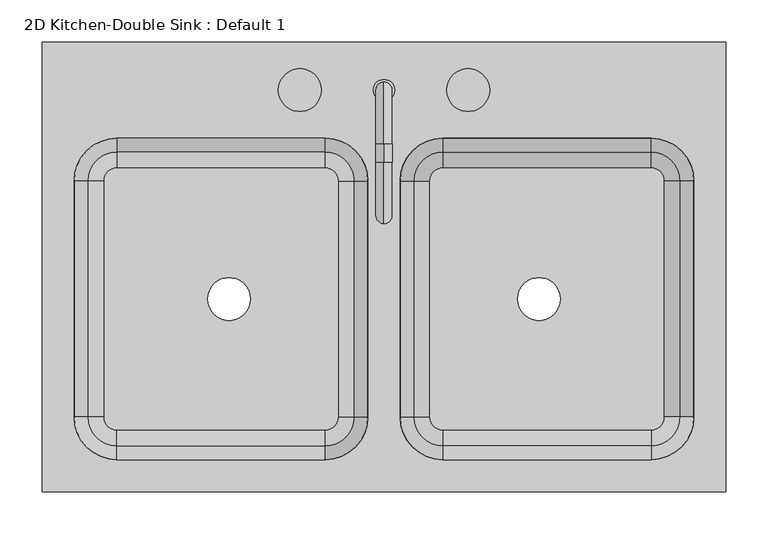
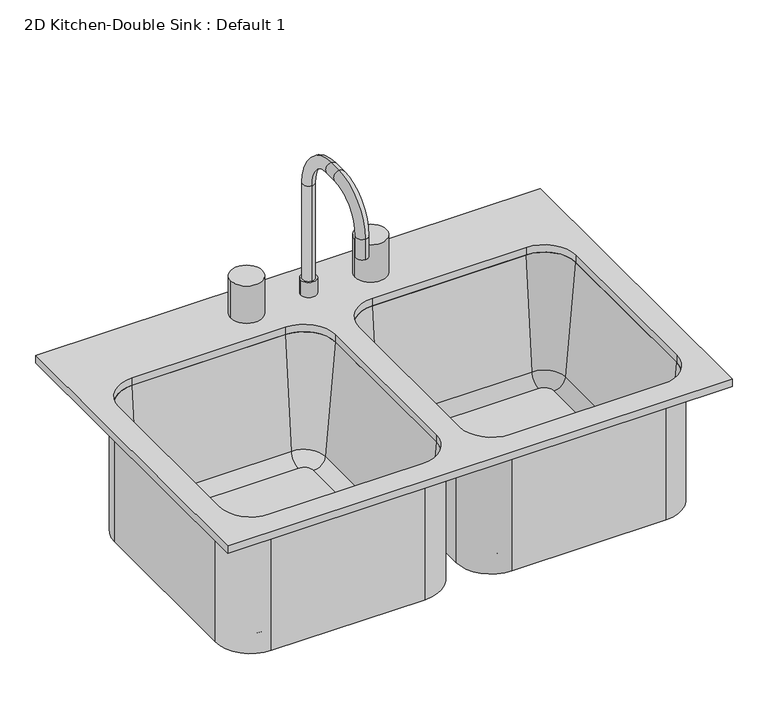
"""IFC4 building model written with IfcOpenShell, lengths in millimetres: flow terminal geometry, 2D Kitchen-Double Sink : Default 1."""

from ifc_helpers import new_model, si_unit, point, frame, frame_2d, origin, place, context, project, spatial, polyline, circle_curve, ellipse_curve, trimmed, segment, composite_curve, outline, extrude, source, transform, mapped, element, save
from ifc_brep_helpers import plane_surface, cylinder_surface, revolved_surface, advanced_brep


def flow_terminal_2d_kitchen_double_sink_default_1_5e0e203f(model_context):
    return source(origin(), model_context, "Body", "SolidModel", [
        advanced_brep(
        [(333.1892343, 120.0338193, 555.625), (85.5392406, 120.0338193, 555.625), (70.2508224, 104.7454011, 555.625), (70.2508224, -176.2545989, 555.625), (85.5392406, -191.5430171, 555.625), (333.1892406, -191.5430171, 555.625), (348.4776588, -176.2545989, 555.625), (348.4776588, 104.7454011, 555.625), (174.4392406, -35.7545989, 555.625), (225.2392406, -35.7545989, 555.625), (28.3892406, 104.7454011, 546.1), (85.5392406, 161.8954011, 546.1), (333.1892406, 161.8954011, 546.1), (390.3392406, 104.7454011, 546.1), (390.3392406, -176.2545989, 546.1), (333.1892406, -233.4045989, 546.1), (85.5392406, -233.4045989, 546.1), (28.3892406, -176.2545989, 546.1), (174.4392406, -35.7545989, 546.1), (225.2392406, -35.7545989, 546.1), (34.7392406, 104.7454011, 762.0), (85.5392406, 155.5454011, 762.0), (85.5392406, 161.8954011, 762.0), (28.3892406, 104.7454011, 762.0), (51.2733134, 104.7454011, 573.0146831), (85.5392406, 139.0113283, 573.0146831), (28.3892406, -176.2545989, 762.0), (34.7392406, -176.2545989, 762.0), (51.2733134, -176.2545989, 573.0146831), (85.5392406, -233.4045989, 762.0), (85.5392406, -227.0545989, 762.0), (85.5392406, -210.5205261, 573.0146831), (333.1892406, -233.4045989, 762.0), (333.1892406, -227.0545989, 762.0), (333.1892406, -210.5205261, 573.0146831), (390.3392406, -176.2545989, 762.0), (383.9892406, -176.2545989, 762.0), (367.4551678, -176.2545989, 573.0146831), (390.3392406, 104.7454011, 762.0), (383.9892406, 104.7454011, 762.0), (367.4551678, 104.7454011, 573.0146831), (333.1892406, 161.8954011, 762.0), (333.1892406, 155.5454011, 762.0), (333.1892406, 139.0113283, 573.0146831)],
        [
            (0, 1),
            (1, 2, circle_curve(frame((85.5392406, 104.7454011, 555.625), z_axis=(0.0, 0.0, 1.0), x_axis=(0.0, 1.0, 0.0)), 15.2884182)),
            (2, 3),
            (3, 4, circle_curve(frame((85.5392406, -176.2545989, 555.625), z_axis=(0.0, 0.0, 1.0), x_axis=(-1.0, 0.0, 0.0)), 15.2884182)),
            (4, 5),
            (5, 6, circle_curve(frame((333.1892406, -176.2545989, 555.625), z_axis=(0.0, 0.0, 1.0), x_axis=(0.0, -1.0, 0.0)), 15.2884182)),
            (6, 7),
            (7, 0, circle_curve(frame((333.1892406, 104.7454011, 555.625), z_axis=(0.0, 0.0, 1.0), x_axis=(1.0, 0.0, 0.0)), 15.2884182)),
            (8, 9, circle_curve(frame((199.8392406, -35.7545989, 555.625), z_axis=(0.0, 0.0, -1.0), x_axis=(1.0, 0.0, 0.0)), 25.4)),
            (9, 8, circle_curve(frame((199.8392406, -35.7545989, 555.625), z_axis=(0.0, 0.0, -1.0), x_axis=(1.0, 0.0, 0.0)), 25.4)),
            (10, 11, circle_curve(frame((85.5392406, 104.7454011, 546.1), z_axis=(0.0, 0.0, -1.0), x_axis=(0.0, 1.0, 0.0)), 57.15)),
            (11, 12),
            (12, 13, circle_curve(frame((333.1892406, 104.7454011, 546.1), z_axis=(0.0, 0.0, -1.0), x_axis=(1.0, 0.0, 0.0)), 57.15)),
            (13, 14),
            (14, 15, circle_curve(frame((333.1892406, -176.2545989, 546.1), z_axis=(0.0, 0.0, -1.0), x_axis=(0.0, -1.0, 0.0)), 57.15)),
            (15, 16),
            (16, 17, circle_curve(frame((85.5392406, -176.2545989, 546.1), z_axis=(0.0, 0.0, -1.0), x_axis=(-1.0, 0.0, 0.0)), 57.15)),
            (17, 10),
            (18, 19, circle_curve(frame((199.8392406, -35.7545989, 546.1), z_axis=(0.0, 0.0, 1.0), x_axis=(1.0, 0.0, 0.0)), 25.4)),
            (19, 18, circle_curve(frame((199.8392406, -35.7545989, 546.1), z_axis=(0.0, 0.0, 1.0), x_axis=(1.0, 0.0, 0.0)), 25.4)),
            (8, 18),
            (19, 9),
            (20, 21, circle_curve(frame((85.5392406, 104.7454011, 762.0), z_axis=(0.0, 0.0, -1.0), x_axis=(0.0, 1.0, 0.0)), 50.8)),
            (21, 22),
            (22, 23, circle_curve(frame((85.5392406, 104.7454011, 762.0), z_axis=(0.0, 0.0, 1.0), x_axis=(0.0, 1.0, 0.0)), 57.15)),
            (23, 20),
            (20, 24),
            (24, 25, circle_curve(frame((85.5392406, 104.7454011, 573.0146831), z_axis=(0.0, 0.0, -1.0), x_axis=(0.0, 1.0, 0.0)), 34.2659272)),
            (25, 21),
            (24, 2, circle_curve(frame((70.2508224, 104.7454011, 574.675), z_axis=(0.0, -1.0, 0.0), x_axis=(1.0, 0.0, 0.0)), 19.05)),
            (1, 25, circle_curve(frame((85.5392406, 120.0338193, 574.675), z_axis=(1.0, 0.0, 0.0), x_axis=(0.0, -1.0, 0.0)), 19.05)),
            (22, 11),
            (10, 23),
            (23, 26),
            (26, 27),
            (27, 20),
            (27, 28),
            (28, 24),
            (28, 3, circle_curve(frame((70.2508224, -176.2545989, 574.675), z_axis=(0.0, -1.0, 0.0), x_axis=(1.0, 0.0, 0.0)), 19.05)),
            (17, 26),
            (26, 29, circle_curve(frame((85.5392406, -176.2545989, 762.0), z_axis=(0.0, 0.0, 1.0), x_axis=(-1.0, 0.0, 0.0)), 57.15)),
            (29, 30),
            (30, 27, circle_curve(frame((85.5392406, -176.2545989, 762.0), z_axis=(0.0, 0.0, -1.0), x_axis=(-1.0, 0.0, 0.0)), 50.8)),
            (30, 31),
            (31, 28, circle_curve(frame((85.5392406, -176.2545989, 573.0146831), z_axis=(0.0, 0.0, -1.0), x_axis=(-1.0, 0.0, 0.0)), 34.2659272)),
            (31, 4, circle_curve(frame((85.5392406, -191.5430171, 574.675), z_axis=(1.0, 0.0, 0.0), x_axis=(0.0, 1.0, 0.0)), 19.05)),
            (16, 29),
            (29, 32),
            (32, 33),
            (33, 30),
            (33, 34),
            (34, 31),
            (34, 5, circle_curve(frame((333.1892406, -191.5430171, 574.675), z_axis=(1.0, 0.0, 0.0), x_axis=(0.0, 1.0, 0.0)), 19.05)),
            (15, 32),
            (32, 35, circle_curve(frame((333.1892406, -176.2545989, 762.0), z_axis=(0.0, 0.0, 1.0), x_axis=(0.0, -1.0, 0.0)), 57.15)),
            (35, 36),
            (36, 33, circle_curve(frame((333.1892406, -176.2545989, 762.0), z_axis=(0.0, 0.0, -1.0), x_axis=(0.0, -1.0, 0.0)), 50.8)),
            (36, 37),
            (37, 34, circle_curve(frame((333.1892406, -176.2545989, 573.0146831), z_axis=(0.0, 0.0, -1.0), x_axis=(0.0, -1.0, 0.0)), 34.2659272)),
            (37, 6, circle_curve(frame((348.4776588, -176.2545989, 574.675), z_axis=(0.0, 1.0, 0.0), x_axis=(-1.0, 0.0, 0.0)), 19.05)),
            (14, 35),
            (35, 38),
            (38, 39),
            (39, 36),
            (39, 40),
            (40, 37),
            (40, 7, circle_curve(frame((348.4776588, 104.7454011, 574.675), z_axis=(0.0, 1.0, 0.0), x_axis=(-1.0, 0.0, 0.0)), 19.05)),
            (13, 38),
            (38, 41, circle_curve(frame((333.1892406, 104.7454011, 762.0), z_axis=(0.0, 0.0, 1.0), x_axis=(1.0, 0.0, 0.0)), 57.15)),
            (41, 42),
            (42, 39, circle_curve(frame((333.1892406, 104.7454011, 762.0), z_axis=(0.0, 0.0, -1.0), x_axis=(1.0, 0.0, 0.0)), 50.8)),
            (42, 43),
            (43, 40, circle_curve(frame((333.1892406, 104.7454011, 573.0146831), z_axis=(0.0, 0.0, -1.0), x_axis=(1.0, 0.0, 0.0)), 34.2659272)),
            (43, 0, circle_curve(frame((333.1892406, 120.0338193, 574.675), z_axis=(-1.0, 0.0, 0.0), x_axis=(0.0, -1.0, 0.0)), 19.05)),
            (12, 41),
            (21, 42),
            (41, 22),
            (25, 43),
        ],
        [
            plane_surface(frame((85.5392406, 120.0338193, 555.625), z_axis=(0.0, 0.0, 1.0), x_axis=(-1.0, 0.0, 0.0))),
            plane_surface(frame((85.5392406, 120.0338193, 546.1), z_axis=(0.0, 0.0, -1.0), x_axis=(1.0, 0.0, 0.0))),
            revolved_surface(polyline([(225.23924060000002, -35.7545989, 546.1), (225.23924060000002, -35.7545989, 555.625)]), (199.8392406, -35.7545989, 0.0), (0.0, 0.0, -1.0)),
            plane_surface(frame((85.5392406, 104.7454011, 762.0), z_axis=(0.0, 0.0, 1.0), x_axis=(0.0, 1.0, 0.0))),
            revolved_surface(polyline([(85.5392406, 155.5454011, 762.0), (85.5392406, 139.0113283, 573.0146831)]), (85.5392406, 104.7454011, 0.0), (0.0, 0.0, 1.0)),
            revolved_surface(trimmed(ellipse_curve(frame((85.5392406, 120.0338193, 574.675), z_axis=(-1.0, 0.0, 0.0), x_axis=(0.0, -1.0, 0.0)), 19.05, 19.05), [point((85.5392406, 139.0113283, 573.0146831))], [point((85.5392406, 120.0338193, 555.625))], True, "CARTESIAN"), (85.5392406, 104.7454011, 0.0), (0.0, 0.0, 1.0)),
            cylinder_surface(frame((85.5392406, 104.7454011, 0.0), z_axis=(0.0, 0.0, 1.0), x_axis=(0.0, 1.0, 0.0)), 57.15),
            plane_surface(frame((28.3892406, 104.7454011, 762.0), z_axis=(0.0, 0.0, 1.0), x_axis=(0.0, -1.0, 0.0))),
            plane_surface(frame((34.7392406, 104.7454011, 762.0), z_axis=(0.996194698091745, 0.0, 0.08715574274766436), x_axis=(0.0, -1.0, 0.0))),
            revolved_surface(polyline([(89.3008224, -176.25459890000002, 574.675), (89.3008224, 104.7454011, 574.675)]), (70.2508224, 104.7454011, 574.675), (0.0, -1.0, 0.0)),
            plane_surface(frame((28.3892406, 104.7454011, 546.1), z_axis=(-1.0, 0.0, 0.0), x_axis=(0.0, -1.0, 0.0))),
            plane_surface(frame((85.5392406, -176.2545989, 762.0), z_axis=(0.0, 0.0, 1.0), x_axis=(-1.0, 0.0, 0.0))),
            revolved_surface(polyline([(34.7392406, -176.2545989, 762.0), (51.2733134, -176.2545989, 573.0146831)]), (85.5392406, -176.2545989, 0.0), (0.0, 0.0, 1.0)),
            revolved_surface(trimmed(ellipse_curve(frame((70.2508224, -176.2545989, 574.675), z_axis=(0.0, -1.0, 0.0), x_axis=(1.0, 0.0, 0.0)), 19.05, 19.05), [point((51.2733134, -176.2545989, 573.0146831))], [point((70.2508224, -176.2545989, 555.625))], True, "CARTESIAN"), (85.5392406, -176.2545989, 0.0), (0.0, 0.0, 1.0)),
            cylinder_surface(frame((85.5392406, -176.2545989, 0.0), z_axis=(0.0, 0.0, 1.0), x_axis=(-1.0, 0.0, 0.0)), 57.15),
            plane_surface(frame((85.5392406, -233.4045989, 762.0), z_axis=(0.0, 0.0, 1.0), x_axis=(1.0, 0.0, 0.0))),
            plane_surface(frame((85.5392406, -227.0545989, 762.0), z_axis=(0.0, 0.996194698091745, 0.08715574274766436), x_axis=(1.0, 0.0, 0.0))),
            revolved_surface(polyline([(333.1892406, -172.49301709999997, 574.675), (85.5392406, -172.49301709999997, 574.675)]), (85.5392406, -191.5430171, 574.675), (1.0, 0.0, 0.0)),
            plane_surface(frame((85.5392406, -233.4045989, 546.1), z_axis=(0.0, -1.0, 0.0), x_axis=(1.0, 0.0, 0.0))),
            plane_surface(frame((333.1892406, -176.2545989, 762.0), z_axis=(0.0, 0.0, 1.0), x_axis=(0.0, -1.0, 0.0))),
            revolved_surface(polyline([(333.1892406, -227.0545989, 762.0), (333.1892406, -210.5205261, 573.0146831)]), (333.1892406, -176.2545989, 0.0), (0.0, 0.0, 1.0)),
            revolved_surface(trimmed(ellipse_curve(frame((333.1892406, -191.5430171, 574.675), z_axis=(1.0, 0.0, 0.0), x_axis=(0.0, 1.0, 0.0)), 19.05, 19.05), [point((333.1892406, -210.5205261, 573.0146831))], [point((333.1892406, -191.5430171, 555.625))], True, "CARTESIAN"), (333.1892406, -176.2545989, 0.0), (0.0, 0.0, 1.0)),
            cylinder_surface(frame((333.1892406, -176.2545989, 0.0), z_axis=(0.0, 0.0, 1.0), x_axis=(0.0, -1.0, 0.0)), 57.15),
            plane_surface(frame((390.3392406, -176.2545989, 762.0), z_axis=(0.0, 0.0, 1.0), x_axis=(0.0, 1.0, 0.0))),
            plane_surface(frame((383.9892406, -176.2545989, 762.0), z_axis=(-0.996194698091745, 0.0, 0.08715574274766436), x_axis=(0.0, 1.0, 0.0))),
            revolved_surface(polyline([(329.42765879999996, 104.74540110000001, 574.675), (329.42765879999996, -176.2545989, 574.675)]), (348.4776588, -176.2545989, 574.675), (0.0, 1.0, 0.0)),
            plane_surface(frame((390.3392406, -176.2545989, 546.1), z_axis=(1.0, 0.0, 0.0), x_axis=(0.0, 1.0, 0.0))),
            plane_surface(frame((333.1892406, 104.7454011, 762.0), z_axis=(0.0, 0.0, 1.0), x_axis=(1.0, 0.0, 0.0))),
            revolved_surface(polyline([(383.9892406, 104.7454011, 762.0), (367.4551678, 104.7454011, 573.0146831)]), (333.1892406, 104.7454011, 0.0), (0.0, 0.0, 1.0)),
            revolved_surface(trimmed(ellipse_curve(frame((348.4776588, 104.7454011, 574.675), z_axis=(0.0, 1.0, 0.0), x_axis=(-1.0, 0.0, 0.0)), 19.05, 19.05), [point((367.4551678, 104.7454011, 573.0146831))], [point((348.4776588, 104.7454011, 555.625))], True, "CARTESIAN"), (333.1892406, 104.7454011, 0.0), (0.0, 0.0, 1.0)),
            cylinder_surface(frame((333.1892406, 104.7454011, 0.0), z_axis=(0.0, 0.0, 1.0), x_axis=(1.0, 0.0, 0.0)), 57.15),
            plane_surface(frame((333.1892406, 161.8954011, 762.0), z_axis=(0.0, 0.0, 1.0), x_axis=(-1.0, 0.0, 0.0))),
            plane_surface(frame((333.1892406, 155.5454011, 762.0), z_axis=(0.0, -0.996194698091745, 0.08715574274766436), x_axis=(-1.0, 0.0, 0.0))),
            revolved_surface(polyline([(85.5392406, 100.98381930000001, 574.675), (333.1892406, 100.98381930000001, 574.675)]), (333.1892406, 120.0338193, 574.675), (-1.0, 0.0, 0.0)),
            plane_surface(frame((333.1892406, 161.8954011, 546.1), z_axis=(0.0, 1.0, 0.0), x_axis=(-1.0, 0.0, 0.0))),
        ],
        [
            (0, [[1, 2, 3, 4, 5, 6, 7, 8], [9, 10]]),
            (1, [[11, 12, 13, 14, 15, 16, 17, 18], [19, 20]]),
            (2, [[-9, 21, -20, 22]]),
            (2, [[-10, -22, -19, -21]]),
            (3, [[23, 24, 25, 26]]),
            (4, [[-23, 27, 28, 29]]),
            (5, [[-28, 30, -2, 31]]),
            (6, [[-25, 32, -11, 33]]),
            (7, [[-26, 34, 35, 36]]),
            (8, [[-27, -36, 37, 38]]),
            (9, [[-30, -38, 39, -3]]),
            (10, [[-33, -18, 40, -34]]),
            (11, [[-35, 41, 42, 43]]),
            (12, [[-37, -43, 44, 45]]),
            (13, [[-39, -45, 46, -4]]),
            (14, [[-40, -17, 47, -41]]),
            (15, [[-42, 48, 49, 50]]),
            (16, [[-44, -50, 51, 52]]),
            (17, [[-46, -52, 53, -5]]),
            (18, [[-47, -16, 54, -48]]),
            (19, [[-49, 55, 56, 57]]),
            (20, [[-51, -57, 58, 59]]),
            (21, [[-53, -59, 60, -6]]),
            (22, [[-54, -15, 61, -55]]),
            (23, [[-56, 62, 63, 64]]),
            (24, [[-58, -64, 65, 66]]),
            (25, [[-60, -66, 67, -7]]),
            (26, [[-61, -14, 68, -62]]),
            (27, [[-63, 69, 70, 71]]),
            (28, [[-65, -71, 72, 73]]),
            (29, [[-67, -73, 74, -8]]),
            (30, [[-68, -13, 75, -69]]),
            (31, [[-24, 76, -70, 77]]),
            (32, [[-29, 78, -72, -76]]),
            (33, [[-31, -1, -74, -78]]),
            (34, [[-32, -77, -75, -12]]),
        ],
    ),
        advanced_brep(
        [(-38.8723412, 104.7454011, 555.625), (-54.1607594, 120.0338193, 555.625), (-301.8107594, 120.0338193, 555.625), (-317.0991776, 104.7454011, 555.625), (-317.0991776, -176.2545989, 555.625), (-301.8107594, -191.5430171, 555.625), (-54.1607594, -191.5430171, 555.625), (-38.8723412, -176.2545989, 555.625), (-193.8607594, -35.7545989, 555.625), (-143.0607594, -35.7545989, 555.625), (-358.9607594, 104.7454011, 546.1), (-301.8107594, 161.8954011, 546.1), (-54.1607594, 161.8954011, 546.1), (2.9892406, 104.7454011, 546.1), (2.9892406, -176.2545989, 546.1), (-54.1607594, -233.4045989, 546.1), (-301.8107594, -233.4045989, 546.1), (-358.9607594, -176.2545989, 546.1), (-193.8607594, -35.7545989, 546.1), (-143.0607594, -35.7545989, 546.1), (-54.1607594, 161.8954011, 762.0), (2.9892406, 104.7454011, 762.0), (-19.8948322, 104.7454011, 573.0146831), (-54.1607594, 139.0113283, 573.0146831), (-3.3607594, 104.7454011, 762.0), (-54.1607594, 155.5454011, 762.0), (2.9892406, -176.2545989, 762.0), (-19.8948322, -176.2545989, 573.0146831), (-3.3607594, -176.2545989, 762.0), (-54.1607594, -233.4045989, 762.0), (-54.1607594, -210.5205261, 573.0146831), (-54.1607594, -227.0545989, 762.0), (-301.8107594, -233.4045989, 762.0), (-301.8107594, -210.5205261, 573.0146831), (-301.8107594, -227.0545989, 762.0), (-358.9607594, -176.2545989, 762.0), (-336.0766866, -176.2545989, 573.0146831), (-352.6107594, -176.2545989, 762.0), (-358.9607594, 104.7454011, 762.0), (-336.0766866, 104.7454011, 573.0146831), (-352.6107594, 104.7454011, 762.0), (-301.8107594, 161.8954011, 762.0), (-301.8107594, 139.0113283, 573.0146831), (-301.8107594, 155.5454011, 762.0)],
        [
            (0, 1, circle_curve(frame((-54.1607594, 104.7454011, 555.625), z_axis=(0.0, 0.0, 1.0), x_axis=(0.0, 1.0, 0.0)), 15.2884182)),
            (1, 2),
            (2, 3, circle_curve(frame((-301.8107594, 104.7454011, 555.625), z_axis=(0.0, 0.0, 1.0), x_axis=(-1.0, 0.0, 0.0)), 15.2884182)),
            (3, 4),
            (4, 5, circle_curve(frame((-301.8107594, -176.2545989, 555.625), z_axis=(0.0, 0.0, 1.0), x_axis=(0.0, -1.0, 0.0)), 15.2884182)),
            (5, 6),
            (6, 7, circle_curve(frame((-54.1607594, -176.2545989, 555.625), z_axis=(0.0, 0.0, 1.0), x_axis=(1.0, 0.0, 0.0)), 15.2884182)),
            (7, 0),
            (8, 9, circle_curve(frame((-168.4607594, -35.7545989, 555.625), z_axis=(0.0, 0.0, -1.0), x_axis=(1.0, 0.0, 0.0)), 25.4)),
            (9, 8, circle_curve(frame((-168.4607594, -35.7545989, 555.625), z_axis=(0.0, 0.0, -1.0), x_axis=(1.0, 0.0, 0.0)), 25.4)),
            (10, 11, circle_curve(frame((-301.8107594, 104.7454011, 546.1), z_axis=(0.0, 0.0, -1.0), x_axis=(-1.0, 0.0, 0.0)), 57.15)),
            (11, 12),
            (12, 13, circle_curve(frame((-54.1607594, 104.7454011, 546.1), z_axis=(0.0, 0.0, -1.0), x_axis=(0.0, 1.0, 0.0)), 57.15)),
            (13, 14),
            (14, 15, circle_curve(frame((-54.1607594, -176.2545989, 546.1), z_axis=(0.0, 0.0, -1.0), x_axis=(1.0, 0.0, 0.0)), 57.15)),
            (15, 16),
            (16, 17, circle_curve(frame((-301.8107594, -176.2545989, 546.1), z_axis=(0.0, 0.0, -1.0), x_axis=(0.0, -1.0, 0.0)), 57.15)),
            (17, 10),
            (18, 19, circle_curve(frame((-168.4607594, -35.7545989, 546.1), z_axis=(0.0, 0.0, 1.0), x_axis=(1.0, 0.0, 0.0)), 25.4)),
            (19, 18, circle_curve(frame((-168.4607594, -35.7545989, 546.1), z_axis=(0.0, 0.0, 1.0), x_axis=(1.0, 0.0, 0.0)), 25.4)),
            (8, 18),
            (19, 9),
            (12, 20),
            (20, 21, circle_curve(frame((-54.1607594, 104.7454011, 762.0), z_axis=(0.0, 0.0, -1.0), x_axis=(0.0, 1.0, 0.0)), 57.15)),
            (21, 13),
            (0, 22, circle_curve(frame((-38.8723412, 104.7454011, 574.675), z_axis=(0.0, -1.0, 0.0), x_axis=(1.0, 0.0, 0.0)), 19.05)),
            (22, 23, circle_curve(frame((-54.1607594, 104.7454011, 573.0146831), z_axis=(0.0, 0.0, 1.0), x_axis=(0.0, 1.0, 0.0)), 34.2659272)),
            (23, 1, circle_curve(frame((-54.1607594, 120.0338193, 574.675), z_axis=(-1.0, 0.0, 0.0), x_axis=(0.0, 1.0, 0.0)), 19.05)),
            (22, 24),
            (24, 25, circle_curve(frame((-54.1607594, 104.7454011, 762.0), z_axis=(0.0, 0.0, 1.0), x_axis=(0.0, 1.0, 0.0)), 50.8)),
            (25, 23),
            (20, 25),
            (24, 21),
            (21, 26),
            (26, 14),
            (7, 27, circle_curve(frame((-38.8723412, -176.2545989, 574.675), z_axis=(0.0, -1.0, 0.0), x_axis=(1.0, 0.0, 0.0)), 19.05)),
            (27, 22),
            (27, 28),
            (28, 24),
            (28, 26),
            (26, 29, circle_curve(frame((-54.1607594, -176.2545989, 762.0), z_axis=(0.0, 0.0, -1.0), x_axis=(1.0, 0.0, 0.0)), 57.15)),
            (29, 15),
            (6, 30, circle_curve(frame((-54.1607594, -191.5430171, 574.675), z_axis=(-1.0, 0.0, 0.0), x_axis=(0.0, -1.0, 0.0)), 19.05)),
            (30, 27, circle_curve(frame((-54.1607594, -176.2545989, 573.0146831), z_axis=(0.0, 0.0, 1.0), x_axis=(1.0, 0.0, 0.0)), 34.2659272)),
            (30, 31),
            (31, 28, circle_curve(frame((-54.1607594, -176.2545989, 762.0), z_axis=(0.0, 0.0, 1.0), x_axis=(1.0, 0.0, 0.0)), 50.8)),
            (31, 29),
            (29, 32),
            (32, 16),
            (5, 33, circle_curve(frame((-301.8107594, -191.5430171, 574.675), z_axis=(-1.0, 0.0, 0.0), x_axis=(0.0, -1.0, 0.0)), 19.05)),
            (33, 30),
            (33, 34),
            (34, 31),
            (34, 32),
            (32, 35, circle_curve(frame((-301.8107594, -176.2545989, 762.0), z_axis=(0.0, 0.0, -1.0), x_axis=(0.0, -1.0, 0.0)), 57.15)),
            (35, 17),
            (4, 36, circle_curve(frame((-317.0991776, -176.2545989, 574.675), z_axis=(0.0, 1.0, 0.0), x_axis=(-1.0, 0.0, 0.0)), 19.05)),
            (36, 33, circle_curve(frame((-301.8107594, -176.2545989, 573.0146831), z_axis=(0.0, 0.0, 1.0), x_axis=(0.0, -1.0, 0.0)), 34.2659272)),
            (36, 37),
            (37, 34, circle_curve(frame((-301.8107594, -176.2545989, 762.0), z_axis=(0.0, 0.0, 1.0), x_axis=(0.0, -1.0, 0.0)), 50.8)),
            (37, 35),
            (35, 38),
            (38, 10),
            (3, 39, circle_curve(frame((-317.0991776, 104.7454011, 574.675), z_axis=(0.0, 1.0, 0.0), x_axis=(-1.0, 0.0, 0.0)), 19.05)),
            (39, 36),
            (39, 40),
            (40, 37),
            (40, 38),
            (38, 41, circle_curve(frame((-301.8107594, 104.7454011, 762.0), z_axis=(0.0, 0.0, -1.0), x_axis=(-1.0, 0.0, 0.0)), 57.15)),
            (41, 11),
            (2, 42, circle_curve(frame((-301.8107594, 120.0338193, 574.675), z_axis=(1.0, 0.0, 0.0), x_axis=(0.0, 1.0, 0.0)), 19.05)),
            (42, 39, circle_curve(frame((-301.8107594, 104.7454011, 573.0146831), z_axis=(0.0, 0.0, 1.0), x_axis=(-1.0, 0.0, 0.0)), 34.2659272)),
            (42, 43),
            (43, 40, circle_curve(frame((-301.8107594, 104.7454011, 762.0), z_axis=(0.0, 0.0, 1.0), x_axis=(-1.0, 0.0, 0.0)), 50.8)),
            (43, 41),
            (41, 20),
            (23, 42),
            (25, 43),
        ],
        [
            plane_surface(frame((-301.8107594, 117.4454011, 555.625), z_axis=(0.0, 0.0, 1.0), x_axis=(-1.0, 0.0, 0.0))),
            plane_surface(frame((-301.8107594, 117.4454011, 546.1), z_axis=(0.0, 0.0, -1.0), x_axis=(1.0, 0.0, 0.0))),
            revolved_surface(polyline([(-143.0607594, -35.7545989, 546.1), (-143.0607594, -35.7545989, 555.625)]), (-168.4607594, -35.7545989, 0.0), (0.0, 0.0, -1.0)),
            cylinder_surface(frame((-54.1607594, 104.7454011, 0.0), z_axis=(0.0, 0.0, -1.0), x_axis=(0.0, 1.0, 0.0)), 57.15),
            revolved_surface(trimmed(ellipse_curve(frame((-54.1607594, 120.0338193, 574.675), z_axis=(1.0, 0.0, 0.0), x_axis=(0.0, 1.0, 0.0)), 19.05, 19.05), [point((-54.1607594, 120.0338193, 555.625))], [point((-54.1607594, 139.0113283, 573.0146831))], True, "CARTESIAN"), (-54.1607594, 104.7454011, 0.0), (0.0, 0.0, -1.0)),
            revolved_surface(polyline([(-54.1607594, 139.0113283, 573.0146831), (-54.1607594, 155.5454011, 762.0)]), (-54.1607594, 104.7454011, 0.0), (0.0, 0.0, -1.0)),
            plane_surface(frame((-54.1607594, 104.7454011, 762.0), z_axis=(0.0, 0.0, 1.0), x_axis=(0.0, 1.0, 0.0))),
            plane_surface(frame((2.9892406, 104.7454011, 762.0), z_axis=(1.0, 0.0, 0.0), x_axis=(0.0, -1.0, 0.0))),
            revolved_surface(polyline([(-19.8223412, -176.25459890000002, 574.675), (-19.8223412, 104.7454011, 574.675)]), (-38.8723412, 104.7454011, 574.675), (0.0, -1.0, 0.0)),
            plane_surface(frame((-19.8948322, 104.7454011, 573.0146831), z_axis=(-0.996194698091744, 0.0, 0.08715574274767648), x_axis=(0.0, -1.0, 0.0))),
            plane_surface(frame((-3.3607594, 104.7454011, 762.0), z_axis=(0.0, 0.0, 1.0), x_axis=(0.0, -1.0, 0.0))),
            cylinder_surface(frame((-54.1607594, -176.2545989, 0.0), z_axis=(0.0, 0.0, -1.0), x_axis=(1.0, 0.0, 0.0)), 57.15),
            revolved_surface(trimmed(ellipse_curve(frame((-38.8723412, -176.2545989, 574.675), z_axis=(0.0, -1.0, 0.0), x_axis=(1.0, 0.0, 0.0)), 19.05, 19.05), [point((-38.8723412, -176.2545989, 555.625))], [point((-19.8948322, -176.2545989, 573.0146831))], True, "CARTESIAN"), (-54.1607594, -176.2545989, 0.0), (0.0, 0.0, -1.0)),
            revolved_surface(polyline([(-19.8948322, -176.2545989, 573.0146831), (-3.3607594, -176.2545989, 762.0)]), (-54.1607594, -176.2545989, 0.0), (0.0, 0.0, -1.0)),
            plane_surface(frame((-54.1607594, -176.2545989, 762.0), z_axis=(0.0, 0.0, 1.0), x_axis=(1.0, 0.0, 0.0))),
            plane_surface(frame((-54.1607594, -233.4045989, 762.0), z_axis=(0.0, -1.0, 0.0), x_axis=(-1.0, 0.0, 0.0))),
            revolved_surface(polyline([(-301.8107594, -210.5930171, 574.675), (-54.1607594, -210.5930171, 574.675)]), (-54.1607594, -191.5430171, 574.675), (-1.0, 0.0, 0.0)),
            plane_surface(frame((-54.1607594, -210.5205261, 573.0146831), z_axis=(0.0, 0.996194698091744, 0.08715574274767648), x_axis=(-1.0, 0.0, 0.0))),
            plane_surface(frame((-54.1607594, -227.0545989, 762.0), z_axis=(0.0, 0.0, 1.0), x_axis=(-1.0, 0.0, 0.0))),
            cylinder_surface(frame((-301.8107594, -176.2545989, 0.0), z_axis=(0.0, 0.0, -1.0), x_axis=(0.0, -1.0, 0.0)), 57.15),
            revolved_surface(trimmed(ellipse_curve(frame((-301.8107594, -191.5430171, 574.675), z_axis=(-1.0, 0.0, 0.0), x_axis=(0.0, -1.0, 0.0)), 19.05, 19.05), [point((-301.8107594, -191.5430171, 555.625))], [point((-301.8107594, -210.5205261, 573.0146831))], True, "CARTESIAN"), (-301.8107594, -176.2545989, 0.0), (0.0, 0.0, -1.0)),
            revolved_surface(polyline([(-301.8107594, -210.5205261, 573.0146831), (-301.8107594, -227.0545989, 762.0)]), (-301.8107594, -176.2545989, 0.0), (0.0, 0.0, -1.0)),
            plane_surface(frame((-301.8107594, -176.2545989, 762.0), z_axis=(0.0, 0.0, 1.0), x_axis=(0.0, -1.0, 0.0))),
            plane_surface(frame((-358.9607594, -176.2545989, 762.0), z_axis=(-1.0, 0.0, 0.0), x_axis=(0.0, 1.0, 0.0))),
            revolved_surface(polyline([(-336.14917760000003, 104.74540110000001, 574.675), (-336.14917760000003, -176.2545989, 574.675)]), (-317.0991776, -176.2545989, 574.675), (0.0, 1.0, 0.0)),
            plane_surface(frame((-336.0766866, -176.2545989, 573.0146831), z_axis=(0.996194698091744, 0.0, 0.08715574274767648), x_axis=(0.0, 1.0, 0.0))),
            plane_surface(frame((-352.6107594, -176.2545989, 762.0), z_axis=(0.0, 0.0, 1.0), x_axis=(0.0, 1.0, 0.0))),
            cylinder_surface(frame((-301.8107594, 104.7454011, 0.0), z_axis=(0.0, 0.0, -1.0), x_axis=(-1.0, 0.0, 0.0)), 57.15),
            revolved_surface(trimmed(ellipse_curve(frame((-317.0991776, 104.7454011, 574.675), z_axis=(0.0, 1.0, 0.0), x_axis=(-1.0, 0.0, 0.0)), 19.05, 19.05), [point((-317.0991776, 104.7454011, 555.625))], [point((-336.0766866, 104.7454011, 573.0146831))], True, "CARTESIAN"), (-301.8107594, 104.7454011, 0.0), (0.0, 0.0, -1.0)),
            revolved_surface(polyline([(-336.0766866, 104.7454011, 573.0146831), (-352.6107594, 104.7454011, 762.0)]), (-301.8107594, 104.7454011, 0.0), (0.0, 0.0, -1.0)),
            plane_surface(frame((-301.8107594, 104.7454011, 762.0), z_axis=(0.0, 0.0, 1.0), x_axis=(-1.0, 0.0, 0.0))),
            plane_surface(frame((-301.8107594, 161.8954011, 762.0), z_axis=(0.0, 1.0, 0.0), x_axis=(1.0, 0.0, 0.0))),
            revolved_surface(polyline([(-54.16075940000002, 139.08381930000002, 574.675), (-301.8107594, 139.08381930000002, 574.675)]), (-301.8107594, 120.0338193, 574.675), (1.0, 0.0, 0.0)),
            plane_surface(frame((-301.8107594, 139.0113283, 573.0146831), z_axis=(0.0, -0.996194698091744, 0.08715574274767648), x_axis=(1.0, 0.0, 0.0))),
            plane_surface(frame((-301.8107594, 155.5454011, 762.0), z_axis=(0.0, 0.0, 1.0), x_axis=(1.0, 0.0, 0.0))),
        ],
        [
            (0, [[1, 2, 3, 4, 5, 6, 7, 8], [9, 10]]),
            (1, [[11, 12, 13, 14, 15, 16, 17, 18], [19, 20]]),
            (2, [[-9, 21, -20, 22]]),
            (2, [[-10, -22, -19, -21]]),
            (3, [[-13, 23, 24, 25]]),
            (4, [[-1, 26, 27, 28]]),
            (5, [[-27, 29, 30, 31]]),
            (6, [[-24, 32, -30, 33]]),
            (7, [[-25, 34, 35, -14]]),
            (8, [[-26, -8, 36, 37]]),
            (9, [[-29, -37, 38, 39]]),
            (10, [[-33, -39, 40, -34]]),
            (11, [[-35, 41, 42, -15]]),
            (12, [[-36, -7, 43, 44]]),
            (13, [[-38, -44, 45, 46]]),
            (14, [[-40, -46, 47, -41]]),
            (15, [[-42, 48, 49, -16]]),
            (16, [[-43, -6, 50, 51]]),
            (17, [[-45, -51, 52, 53]]),
            (18, [[-47, -53, 54, -48]]),
            (19, [[-49, 55, 56, -17]]),
            (20, [[-50, -5, 57, 58]]),
            (21, [[-52, -58, 59, 60]]),
            (22, [[-54, -60, 61, -55]]),
            (23, [[-56, 62, 63, -18]]),
            (24, [[-57, -4, 64, 65]]),
            (25, [[-59, -65, 66, 67]]),
            (26, [[-61, -67, 68, -62]]),
            (27, [[-63, 69, 70, -11]]),
            (28, [[-64, -3, 71, 72]]),
            (29, [[-66, -72, 73, 74]]),
            (30, [[-68, -74, 75, -69]]),
            (31, [[-23, -12, -70, 76]]),
            (32, [[-28, 77, -71, -2]]),
            (33, [[-31, 78, -73, -77]]),
            (34, [[-32, -76, -75, -78]]),
        ],
    ),
        advanced_brep(
        [(2.9892406, 212.6954011, 774.7), (28.3892406, 212.6954011, 774.7), (15.6892406, 222.2204011, 962.025), (15.6892406, 203.1704011, 962.025), (15.6892406, 203.1704011, 800.1), (15.6892406, 222.2204011, 800.1), (15.6892406, 149.1954011, 1035.05), (15.6892406, 149.1954011, 1016.0), (15.6892406, 126.9704011, 1035.05), (15.6892406, 126.9704011, 1016.0), (15.6892406, 53.9454011, 962.025), (15.6892406, 72.9954011, 962.025), (15.6892406, 53.9454011, 927.1), (15.6892406, 72.9954011, 927.1), (2.9892406, 212.6954011, 800.1), (28.3892406, 212.6954011, 800.1)],
        [
            (0, 1, circle_curve(frame((15.6892406, 212.6954011, 774.7), z_axis=(0.0, 0.0, -1.0), x_axis=(1.0, 0.0, 0.0)), 12.7)),
            (1, 0, circle_curve(frame((15.6892406, 212.6954011, 774.7), z_axis=(0.0, 0.0, -1.0), x_axis=(1.0, 0.0, 0.0)), 12.7)),
            (2, 3, circle_curve(frame((15.6892406, 212.6954011, 962.025), z_axis=(0.0, 0.0, -1.0), x_axis=(0.0, -1.0, 0.0)), 9.525)),
            (3, 4),
            (4, 5, circle_curve(frame((15.6892406, 212.6954011, 800.1), z_axis=(0.0, 0.0, 1.0), x_axis=(0.0, -1.0, 0.0)), 9.525)),
            (5, 2),
            (3, 2, circle_curve(frame((15.6892406, 212.6954011, 962.025), z_axis=(0.0, 0.0, -1.0), x_axis=(0.0, -1.0, 0.0)), 9.525)),
            (5, 4, circle_curve(frame((15.6892406, 212.6954011, 800.1), z_axis=(0.0, 0.0, 1.0), x_axis=(0.0, -1.0, 0.0)), 9.525)),
            (2, 6, circle_curve(frame((15.6892406, 149.1954011, 962.025), z_axis=(1.0, 0.0, 0.0), x_axis=(0.0, 1.0, 0.0)), 73.025)),
            (6, 7, circle_curve(frame((15.6892406, 149.1954011, 1025.525), z_axis=(0.0, 1.0, 0.0), x_axis=(0.0, 0.0, -1.0)), 9.525)),
            (7, 3, circle_curve(frame((15.6892406, 149.1954011, 962.025), z_axis=(-1.0, 0.0, 0.0), x_axis=(0.0, 1.0, 0.0)), 53.975)),
            (7, 6, circle_curve(frame((15.6892406, 149.1954011, 1025.525), z_axis=(0.0, 1.0, 0.0), x_axis=(0.0, 0.0, -1.0)), 9.525)),
            (6, 8),
            (8, 9, circle_curve(frame((15.6892406, 126.9704011, 1025.525), z_axis=(0.0, 1.0, 0.0), x_axis=(0.0, 0.0, -1.0)), 9.525)),
            (9, 7),
            (9, 8, circle_curve(frame((15.6892406, 126.9704011, 1025.525), z_axis=(0.0, 1.0, 0.0), x_axis=(0.0, 0.0, -1.0)), 9.525)),
            (8, 10, circle_curve(frame((15.6892406, 126.9704011, 962.025), z_axis=(1.0, 0.0, 0.0), x_axis=(0.0, 0.0, 1.0)), 73.025)),
            (10, 11, circle_curve(frame((15.6892406, 63.4704011, 962.025), z_axis=(0.0, 0.0, 1.0), x_axis=(0.0, 1.0, 0.0)), 9.525)),
            (11, 9, circle_curve(frame((15.6892406, 126.9704011, 962.025), z_axis=(-1.0, 0.0, 0.0), x_axis=(0.0, 0.0, 1.0)), 53.975)),
            (11, 10, circle_curve(frame((15.6892406, 63.4704011, 962.025), z_axis=(0.0, 0.0, 1.0), x_axis=(0.0, 1.0, 0.0)), 9.525)),
            (12, 13, circle_curve(frame((15.6892406, 63.4704011, 927.1), z_axis=(0.0, 0.0, -1.0), x_axis=(0.0, 1.0, 0.0)), 9.525)),
            (13, 12, circle_curve(frame((15.6892406, 63.4704011, 927.1), z_axis=(0.0, 0.0, -1.0), x_axis=(0.0, 1.0, 0.0)), 9.525)),
            (10, 12),
            (13, 11),
            (14, 15, circle_curve(frame((15.6892406, 212.6954011, 800.1), z_axis=(0.0, 0.0, 1.0), x_axis=(1.0, 0.0, 0.0)), 12.7)),
            (15, 14, circle_curve(frame((15.6892406, 212.6954011, 800.1), z_axis=(0.0, 0.0, 1.0), x_axis=(1.0, 0.0, 0.0)), 12.7)),
            (14, 0),
            (1, 15),
        ],
        [
            plane_surface(frame((15.6892406, 203.1704011, 774.7), z_axis=(0.0, 0.0, -1.0), x_axis=(1.0, 0.0, 0.0))),
            cylinder_surface(frame((15.6892406, 212.6954011, 774.7), z_axis=(0.0, 0.0, -1.0), x_axis=(0.0, -1.0, 0.0)), 9.525),
            revolved_surface(trimmed(ellipse_curve(frame((15.6892406, 212.6954011, 962.025), z_axis=(0.0, 0.0, -1.0), x_axis=(0.0, -1.0, 0.0)), 9.525, 9.525), [point((15.6892406, 222.2204011, 962.025))], [point((15.6892406, 203.1704011, 962.025))], True, "CARTESIAN"), (15.6892406, 149.1954011, 962.025), (1.0, 0.0, 0.0)),
            revolved_surface(trimmed(ellipse_curve(frame((15.6892406, 212.6954011, 962.025), z_axis=(0.0, 0.0, -1.0), x_axis=(0.0, -1.0, 0.0)), 9.525, 9.525), [point((15.6892406, 203.1704011, 962.025))], [point((15.6892406, 222.2204011, 962.025))], True, "CARTESIAN"), (15.6892406, 149.1954011, 962.025), (1.0, 0.0, 0.0)),
            cylinder_surface(frame((15.6892406, 149.1954011, 1025.525), z_axis=(0.0, 1.0, 0.0), x_axis=(0.0, 0.0, -1.0)), 9.525),
            revolved_surface(trimmed(ellipse_curve(frame((15.6892406, 126.9704011, 1025.525), z_axis=(0.0, 1.0, 0.0), x_axis=(0.0, 0.0, -1.0)), 9.525, 9.525), [point((15.6892406, 126.9704011, 1035.05))], [point((15.6892406, 126.9704011, 1016.0))], True, "CARTESIAN"), (15.6892406, 126.9704011, 962.025), (1.0, 0.0, 0.0)),
            revolved_surface(trimmed(ellipse_curve(frame((15.6892406, 126.9704011, 1025.525), z_axis=(0.0, 1.0, 0.0), x_axis=(0.0, 0.0, -1.0)), 9.525, 9.525), [point((15.6892406, 126.9704011, 1016.0))], [point((15.6892406, 126.9704011, 1035.05))], True, "CARTESIAN"), (15.6892406, 126.9704011, 962.025), (1.0, 0.0, 0.0)),
            plane_surface(frame((15.6892406, 53.9454011, 927.1), z_axis=(0.0, 0.0, -1.0), x_axis=(-1.0, 0.0, 0.0))),
            cylinder_surface(frame((15.6892406, 63.4704011, 962.025), z_axis=(0.0, 0.0, 1.0), x_axis=(0.0, 1.0, 0.0)), 9.525),
            plane_surface(frame((28.3892406, 212.6954011, 800.1), z_axis=(0.0, 0.0, 1.0), x_axis=(0.0, 1.0, 0.0))),
            cylinder_surface(frame((15.6892406, 212.6954011, 774.7), z_axis=(0.0, 0.0, 1.0), x_axis=(1.0, 0.0, 0.0)), 12.7),
        ],
        [
            (0, [[1, 2]]),
            (1, [[3, 4, 5, 6]]),
            (1, [[7, -6, 8, -4]]),
            (2, [[-3, 9, 10, 11]]),
            (3, [[-7, -11, 12, -9]]),
            (4, [[-10, 13, 14, 15]]),
            (4, [[-12, -15, 16, -13]]),
            (5, [[-14, 17, 18, 19]]),
            (6, [[-16, -19, 20, -17]]),
            (7, [[21, 22]]),
            (8, [[-18, 23, -22, 24]]),
            (8, [[-20, -24, -21, -23]]),
            (9, [[25, 26], [-5, -8]]),
            (10, [[-25, 27, -2, 28]]),
            (10, [[-26, -28, -1, -27]]),
        ],
    ),
        extrude(outline(composite_curve([segment(trimmed(circle_curve(frame_2d((-84.3107594, 212.6954011)), 25.4), [point((-109.7107594, 212.6954011))], [point((-58.9107594, 212.6954011))], False, "CARTESIAN"), True, "CONTINUOUS"), segment(trimmed(circle_curve(frame_2d((-84.3107594, 212.6954011)), 25.4), [point((-58.9107594, 212.6954011))], [point((-109.7107594, 212.6954011))], False, "CARTESIAN"), True, "CONTINUOUS")], self_intersect=False)), frame((0.0, 0.0, 774.7), z_axis=(0.0, 0.0, 1.0), x_axis=(1.0, 0.0, 0.0)), (0.0, 0.0, 1.0), 63.5),
        extrude(outline(composite_curve([segment(trimmed(circle_curve(frame_2d((115.6892406, 212.6954011)), 25.4), [point((90.2892406, 212.6954011))], [point((141.0892406, 212.6954011))], False, "CARTESIAN"), True, "CONTINUOUS"), segment(trimmed(circle_curve(frame_2d((115.6892406, 212.6954011)), 25.4), [point((141.0892406, 212.6954011))], [point((90.2892406, 212.6954011))], False, "CARTESIAN"), True, "CONTINUOUS")], self_intersect=False)), frame((0.0, 0.0, 774.7), z_axis=(0.0, 0.0, 1.0), x_axis=(1.0, 0.0, 0.0)), (0.0, 0.0, 1.0), 63.5),
        extrude(outline(polyline([(422.0892406, 269.8454011), (422.0892406, -265.1545989), (-390.7107594, -265.1545989), (-390.7107594, 269.8454011), (422.0892406, 269.8454011)]), holes=[composite_curve([segment(polyline([(-54.1607594, 155.5454011), (-301.8107594, 155.5454011)]), True, "CONTINUOUS"), segment(trimmed(circle_curve(frame_2d((-301.8107594, 104.7454011)), 50.8), [point((-301.8107594, 155.5454011))], [point((-352.6107594, 104.7454011))], True, "CARTESIAN"), True, "CONTINUOUS"), segment(polyline([(-352.6107594, 104.7454011), (-352.6107594, -176.2545989)]), True, "CONTINUOUS"), segment(trimmed(circle_curve(frame_2d((-301.8107594, -176.2545989)), 50.8), [point((-352.6107594, -176.2545989))], [point((-301.8107594, -227.0545989))], True, "CARTESIAN"), True, "CONTINUOUS"), segment(polyline([(-301.8107594, -227.0545989), (-54.1607594, -227.0545989)]), True, "CONTINUOUS"), segment(trimmed(circle_curve(frame_2d((-54.1607594, -176.2545989)), 50.8), [point((-54.1607594, -227.0545989))], [point((-3.3607594, -176.2545989))], True, "CARTESIAN"), True, "CONTINUOUS"), segment(polyline([(-3.3607594, -176.2545989), (-3.3607594, 104.7454011)]), True, "CONTINUOUS"), segment(trimmed(circle_curve(frame_2d((-54.1607594, 104.7454011)), 50.8), [point((-3.3607594, 104.7454011))], [point((-54.1607594, 155.5454011))], True, "CARTESIAN"), True, "CONTINUOUS")], self_intersect=False), composite_curve([segment(polyline([(85.5392406, -227.0545989), (333.1892406, -227.0545989)]), True, "CONTINUOUS"), segment(trimmed(circle_curve(frame_2d((333.1892406, -176.2545989)), 50.8), [point((333.1892406, -227.0545989))], [point((383.9892406, -176.2545989))], True, "CARTESIAN"), True, "CONTINUOUS"), segment(polyline([(383.9892406, -176.2545989), (383.9892406, 104.7454011)]), True, "CONTINUOUS"), segment(trimmed(circle_curve(frame_2d((333.1892406, 104.7454011)), 50.8), [point((383.9892406, 104.7454011))], [point((333.1892406, 155.5454011))], True, "CARTESIAN"), True, "CONTINUOUS"), segment(polyline([(333.1892406, 155.5454011), (85.5392406, 155.5454011)]), True, "CONTINUOUS"), segment(trimmed(circle_curve(frame_2d((85.5392406, 104.7454011)), 50.8), [point((85.5392406, 155.5454011))], [point((34.7392406, 104.7454011))], True, "CARTESIAN"), True, "CONTINUOUS"), segment(polyline([(34.7392406, 104.7454011), (34.7392406, -176.2545989)]), True, "CONTINUOUS"), segment(trimmed(circle_curve(frame_2d((85.5392406, -176.2545989)), 50.8), [point((34.7392406, -176.2545989))], [point((85.5392406, -227.0545989))], True, "CARTESIAN"), True, "CONTINUOUS")], self_intersect=False)]), frame((0.0, 0.0, 762.0), z_axis=(0.0, 0.0, 1.0), x_axis=(1.0, 0.0, 0.0)), (0.0, 0.0, 1.0), 12.7),
    ])


if __name__ == "__main__":
    model = new_model("IFC4")
    model_context = context("Model", 3, world=origin())
    ifc_project = project(units=[si_unit("LENGTHUNIT", "METRE", prefix="MILLI")], contexts=[model_context])
    site = spatial("IfcSite", under=ifc_project)
    building = spatial("IfcBuilding", under=site)
    placement = place(None, origin())
    flow_terminal_2d_kitchen_double_sink_default_1_shape = flow_terminal_2d_kitchen_double_sink_default_1_5e0e203f(model_context)
    element("IfcFlowTerminal", 1, ObjectType="2D Kitchen-Double Sink : Default 1", at=placement, inside=building, context=model_context, shape_type="MappedRepresentation", body=[
        mapped(flow_terminal_2d_kitchen_double_sink_default_1_shape, transform((0.0, 0.0, 0.0), x_axis=(1.0, 0.0, 0.0), y_axis=(0.0, 1.0, 0.0), z_axis=(0.0, 0.0, 1.0))),
    ])
    save(model, "model.ifc")
